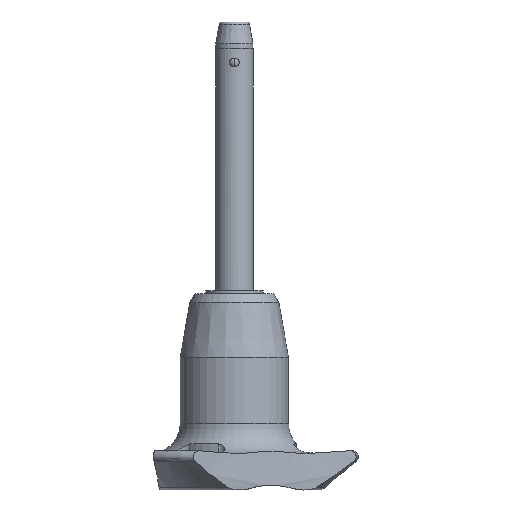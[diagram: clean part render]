
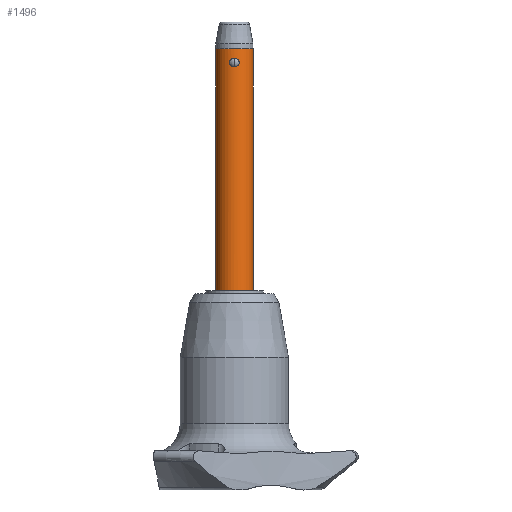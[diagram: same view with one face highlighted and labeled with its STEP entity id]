
A CAD part, front view. The second image highlights one B-rep face of the part: STEP entity #1496.
In plain terms, the highlighted cylindrical face has radius 2.5 mm (diameter 5 mm), a partial arc.
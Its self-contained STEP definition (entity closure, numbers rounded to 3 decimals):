
#86 = CARTESIAN_POINT ( 'NONE',  ( 0.562, -2.436, 0.887 ) ) ;
#97 = CARTESIAN_POINT ( 'NONE',  ( 0.164, -2.5, 1.162 ) ) ;
#128 = CARTESIAN_POINT ( 'NONE',  ( -0.632, -2.419, 0.744 ) ) ;
#144 = CARTESIAN_POINT ( 'NONE',  ( 0., -2.5, 0. ) ) ;
#158 = CARTESIAN_POINT ( 'NONE',  ( 2.5, 0., 2.4 ) ) ;
#178 = CARTESIAN_POINT ( 'NONE',  ( -0.652, -2.413, 0.501 ) ) ;
#231 = ORIENTED_EDGE ( 'NONE', *, *, #843, .F. ) ;
#248 = EDGE_CURVE ( 'NONE', #1930, #894, #2541, .T. ) ;
#299 = CARTESIAN_POINT ( 'NONE',  ( 0.652, -2.414, 0.497 ) ) ;
#332 = CARTESIAN_POINT ( 'NONE',  ( -0.511, -2.448, 0.21 ) ) ;
#334 = EDGE_CURVE ( 'NONE', #993, #1822, #1327, .T. ) ;
#449 = CARTESIAN_POINT ( 'NONE',  ( 0., 0., -30. ) ) ;
#479 = DIRECTION ( 'NONE',  ( 0., 0., 1. ) ) ;
#481 = DIRECTION ( 'NONE',  ( 1., 0., 0. ) ) ;
#494 = CARTESIAN_POINT ( 'NONE',  ( 0., -2.5, 0. ) ) ;
#509 = CARTESIAN_POINT ( 'NONE',  ( 0.632, -2.419, 0.416 ) ) ;
#520 = CARTESIAN_POINT ( 'NONE',  ( 2.5, 0., -30. ) ) ;
#567 = CARTESIAN_POINT ( 'NONE',  ( -0.562, -2.436, 0.274 ) ) ;
#645 = CARTESIAN_POINT ( 'NONE',  ( 2.5, 0., -30. ) ) ;
#700 = B_SPLINE_CURVE_WITH_KNOTS ( 'NONE', 3,
 ( #494, #1158, #2441, #1563, #2426, #509, #299, #1147, #2003, #86, #1374, #2227, #97, #735 ),
 .UNSPECIFIED., .F., .F.,
 ( 4, 2, 2, 2, 2, 2, 4 ),
 ( 0.002, 0.002, 0.003, 0.003, 0.003, 0.003, 0.004 ),
 .UNSPECIFIED. ) ;
#735 = CARTESIAN_POINT ( 'NONE',  ( 0., -2.5, 1.162 ) ) ;
#751 = EDGE_CURVE ( 'NONE', #1930, #993, #860, .T. ) ;
#782 = CARTESIAN_POINT ( 'NONE',  ( -0.164, -2.5, 1.162 ) ) ;
#796 = CARTESIAN_POINT ( 'NONE',  ( -0.561, -2.436, 0.889 ) ) ;
#805 = VECTOR ( 'NONE', #479, 1000. ) ;
#843 = EDGE_CURVE ( 'NONE', #1882, #1424, #700, .T. ) ;
#860 = CIRCLE ( 'NONE', #1569, 2.5 ) ;
#894 = VERTEX_POINT ( 'NONE', #158 ) ;
#993 = VERTEX_POINT ( 'NONE', #2466 ) ;
#1028 = EDGE_LOOP ( 'NONE', ( #1666, #231 ) ) ;
#1147 = CARTESIAN_POINT ( 'NONE',  ( 0.652, -2.413, 0.66 ) ) ;
#1155 = DIRECTION ( 'NONE',  ( 0., 0., -1. ) ) ;
#1158 = CARTESIAN_POINT ( 'NONE',  ( 0.162, -2.5, 0. ) ) ;
#1203 = CARTESIAN_POINT ( 'NONE',  ( -0.633, -2.419, 0.42 ) ) ;
#1220 = CARTESIAN_POINT ( 'NONE',  ( 0., -2.5, 1.162 ) ) ;
#1237 = ORIENTED_EDGE ( 'NONE', *, *, #1716, .F. ) ;
#1327 = LINE ( 'NONE', #1546, #805 ) ;
#1343 = CARTESIAN_POINT ( 'NONE',  ( 0., -2.5, 0. ) ) ;
#1356 = EDGE_CURVE ( 'NONE', #1424, #1882, #2552, .T. ) ;
#1357 = DIRECTION ( 'NONE',  ( 1., 0., 0. ) ) ;
#1374 = CARTESIAN_POINT ( 'NONE',  ( 0.511, -2.448, 0.952 ) ) ;
#1424 = VERTEX_POINT ( 'NONE', #2746 ) ;
#1492 = AXIS2_PLACEMENT_3D ( 'NONE', #1849, #2709, #481 ) ;
#1496 = ADVANCED_FACE ( 'NONE', ( #2107, #2336 ), #2586, .T. ) ;
#1546 = CARTESIAN_POINT ( 'NONE',  ( -2.5, 0., -30. ) ) ;
#1563 = CARTESIAN_POINT ( 'NONE',  ( 0.509, -2.448, 0.208 ) ) ;
#1569 = AXIS2_PLACEMENT_3D ( 'NONE', #2647, #1155, #1357 ) ;
#1666 = ORIENTED_EDGE ( 'NONE', *, *, #1356, .F. ) ;
#1698 = ORIENTED_EDGE ( 'NONE', *, *, #334, .F. ) ;
#1716 = EDGE_CURVE ( 'NONE', #1822, #894, #2704, .T. ) ;
#1822 = VERTEX_POINT ( 'NONE', #1972 ) ;
#1849 = CARTESIAN_POINT ( 'NONE',  ( 0., 0., 2.4 ) ) ;
#1882 = VERTEX_POINT ( 'NONE', #1343 ) ;
#1922 = DIRECTION ( 'NONE',  ( 0., 0., 1. ) ) ;
#1930 = VERTEX_POINT ( 'NONE', #520 ) ;
#1972 = CARTESIAN_POINT ( 'NONE',  ( -2.5, 0., 2.4 ) ) ;
#1975 = VECTOR ( 'NONE', #1922, 1000. ) ;
#2003 = CARTESIAN_POINT ( 'NONE',  ( 0.633, -2.419, 0.742 ) ) ;
#2006 = EDGE_LOOP ( 'NONE', ( #1698, #2204, #2430, #1237 ) ) ;
#2080 = CARTESIAN_POINT ( 'NONE',  ( -0.162, -2.5, 0. ) ) ;
#2094 = CARTESIAN_POINT ( 'NONE',  ( -0.324, -2.482, 1.108 ) ) ;
#2107 = FACE_OUTER_BOUND ( 'NONE', #2006, .T. ) ;
#2204 = ORIENTED_EDGE ( 'NONE', *, *, #751, .F. ) ;
#2227 = CARTESIAN_POINT ( 'NONE',  ( 0.327, -2.482, 1.107 ) ) ;
#2260 = CARTESIAN_POINT ( 'NONE',  ( -0.326, -2.482, 0.054 ) ) ;
#2322 = DIRECTION ( 'NONE',  ( 0., 0., 1. ) ) ;
#2336 = FACE_BOUND ( 'NONE', #1028, .T. ) ;
#2354 = DIRECTION ( 'NONE',  ( 1., 0., 0. ) ) ;
#2426 = CARTESIAN_POINT ( 'NONE',  ( 0.561, -2.437, 0.273 ) ) ;
#2430 = ORIENTED_EDGE ( 'NONE', *, *, #248, .T. ) ;
#2441 = CARTESIAN_POINT ( 'NONE',  ( 0.326, -2.482, 0.055 ) ) ;
#2466 = CARTESIAN_POINT ( 'NONE',  ( -2.5, 0., -30. ) ) ;
#2513 = CARTESIAN_POINT ( 'NONE',  ( -0.51, -2.448, 0.953 ) ) ;
#2541 = LINE ( 'NONE', #645, #1975 ) ;
#2552 = B_SPLINE_CURVE_WITH_KNOTS ( 'NONE', 3,
 ( #1220, #782, #2094, #2513, #796, #128, #2683, #178, #1203, #567, #332, #2260, #2080, #144 ),
 .UNSPECIFIED., .F., .F.,
 ( 4, 2, 2, 2, 2, 2, 4 ),
 ( 0., 0., 0.001, 0.001, 0.001, 0.001, 0.002 ),
 .UNSPECIFIED. ) ;
#2586 = CYLINDRICAL_SURFACE ( 'NONE', #2657, 2.5 ) ;
#2647 = CARTESIAN_POINT ( 'NONE',  ( 0., 0., -30. ) ) ;
#2657 = AXIS2_PLACEMENT_3D ( 'NONE', #449, #2322, #2354 ) ;
#2683 = CARTESIAN_POINT ( 'NONE',  ( -0.652, -2.414, 0.663 ) ) ;
#2704 = CIRCLE ( 'NONE', #1492, 2.5 ) ;
#2709 = DIRECTION ( 'NONE',  ( 0., 0., 1. ) ) ;
#2746 = CARTESIAN_POINT ( 'NONE',  ( 0., -2.5, 1.162 ) ) ;
